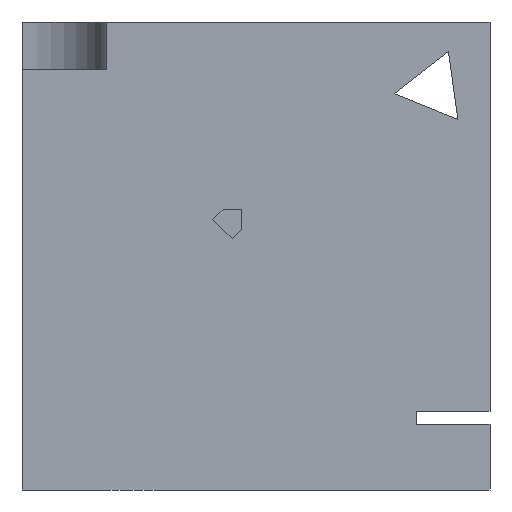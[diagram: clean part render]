
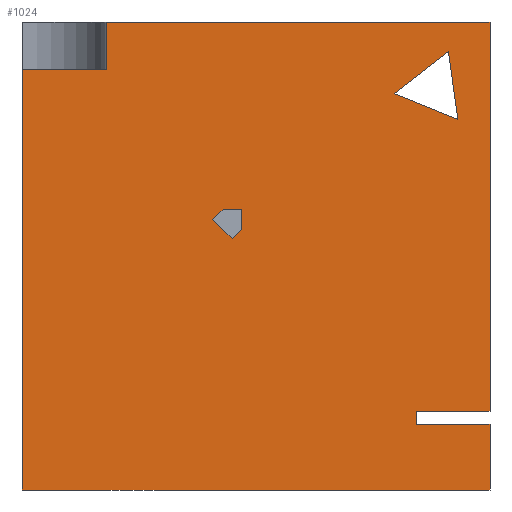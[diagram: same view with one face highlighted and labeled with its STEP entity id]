
A CAD part, left-side view. The second image highlights one B-rep face of the part: STEP entity #1024.
In plain terms, the highlighted planar face has unit normal (-1, 0, 0).
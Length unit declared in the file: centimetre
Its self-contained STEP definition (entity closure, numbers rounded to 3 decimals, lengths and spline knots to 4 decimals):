
#9 = ORIENTED_EDGE ( 'NONE', *, *, #411, .F. ) ;
#17 = LINE ( 'NONE', #721, #23 ) ;
#23 = VECTOR ( 'NONE', #239, 100. ) ;
#32 = CARTESIAN_POINT ( 'NONE',  ( 0., 819.4402, 1000. ) ) ;
#38 = CARTESIAN_POINT ( 'NONE',  ( 0., 156.3605, 140.3757 ) ) ;
#53 = CARTESIAN_POINT ( 'NONE',  ( 0., 551.1977, 536.6098 ) ) ;
#60 = DIRECTION ( 'NONE',  ( 0., 0., -1. ) ) ;
#62 = VECTOR ( 'NONE', #888, 100. ) ;
#69 = VERTEX_POINT ( 'NONE', #531 ) ;
#71 = EDGE_CURVE ( 'NONE', #766, #1152, #434, .T. ) ;
#75 = VERTEX_POINT ( 'NONE', #38 ) ;
#78 = CARTESIAN_POINT ( 'NONE',  ( 0., 531.9568, 555.8506 ) ) ;
#93 = FACE_BOUND ( 'NONE', #1213, .T. ) ;
#119 = VERTEX_POINT ( 'NONE', #124 ) ;
#120 = DIRECTION ( 'NONE',  ( 0., 0., -1. ) ) ;
#122 = ORIENTED_EDGE ( 'NONE', *, *, #181, .F. ) ;
#124 = CARTESIAN_POINT ( 'NONE',  ( 0., 0., 140.3757 ) ) ;
#134 = CARTESIAN_POINT ( 'NONE',  ( 0., 88.9545, 937.2969 ) ) ;
#136 = DIRECTION ( 'NONE',  ( 0., 0.927, 0.375 ) ) ;
#137 = CARTESIAN_POINT ( 'NONE',  ( 0., 0., 1000. ) ) ;
#140 = EDGE_CURVE ( 'NONE', #69, #719, #17, .T. ) ;
#146 = VECTOR ( 'NONE', #637, 100. ) ;
#154 = ORIENTED_EDGE ( 'NONE', *, *, #140, .F. ) ;
#156 = CARTESIAN_POINT ( 'NONE',  ( 0., 204.7481, 847.0051 ) ) ;
#171 = CARTESIAN_POINT ( 'NONE',  ( 0., 592.2954, 577.7075 ) ) ;
#173 = EDGE_CURVE ( 'NONE', #547, #535, #226, .T. ) ;
#181 = EDGE_CURVE ( 'NONE', #198, #766, #509, .T. ) ;
#183 = CARTESIAN_POINT ( 'NONE',  ( 0., 570.4385, 599.5643 ) ) ;
#190 = DIRECTION ( 'NONE',  ( 0., -1., 0. ) ) ;
#198 = VERTEX_POINT ( 'NONE', #32 ) ;
#208 = VERTEX_POINT ( 'NONE', #134 ) ;
#216 = LINE ( 'NONE', #408, #285 ) ;
#226 = LINE ( 'NONE', #439, #1280 ) ;
#230 = LINE ( 'NONE', #1027, #470 ) ;
#239 = DIRECTION ( 'NONE',  ( 0., -1., 0. ) ) ;
#260 = DIRECTION ( 'NONE',  ( 0., -0.707, -0.707 ) ) ;
#285 = VECTOR ( 'NONE', #809, 100. ) ;
#288 = ORIENTED_EDGE ( 'NONE', *, *, #569, .F. ) ;
#326 = EDGE_CURVE ( 'NONE', #410, #995, #768, .T. ) ;
#336 = CARTESIAN_POINT ( 'NONE',  ( 0., 156.3605, 168.6047 ) ) ;
#357 = EDGE_CURVE ( 'NONE', #1016, #410, #942, .T. ) ;
#360 = ORIENTED_EDGE ( 'NONE', *, *, #173, .T. ) ;
#362 = ORIENTED_EDGE ( 'NONE', *, *, #879, .T. ) ;
#367 = CARTESIAN_POINT ( 'NONE',  ( 0., 819.4402, 899.1339 ) ) ;
#374 = VERTEX_POINT ( 'NONE', #53 ) ;
#382 = DIRECTION ( 'NONE',  ( 1., 0., 0. ) ) ;
#396 = LINE ( 'NONE', #1061, #782 ) ;
#397 = EDGE_CURVE ( 'NONE', #1231, #75, #841, .T. ) ;
#398 = CARTESIAN_POINT ( 'NONE',  ( 0., 204.7481, 847.0051 ) ) ;
#404 = ORIENTED_EDGE ( 'NONE', *, *, #794, .T. ) ;
#408 = CARTESIAN_POINT ( 'NONE',  ( 0., 551.1977, 536.6098 ) ) ;
#410 = VERTEX_POINT ( 'NONE', #565 ) ;
#411 = EDGE_CURVE ( 'NONE', #995, #374, #1250, .T. ) ;
#420 = CARTESIAN_POINT ( 'NONE',  ( 0., 0., 1000. ) ) ;
#428 = DIRECTION ( 'NONE',  ( 0., 0., -1. ) ) ;
#431 = CARTESIAN_POINT ( 'NONE',  ( 0., 819.4402, 899.1339 ) ) ;
#434 = LINE ( 'NONE', #420, #678 ) ;
#439 = CARTESIAN_POINT ( 'NONE',  ( 0., 1000., 0. ) ) ;
#460 = ORIENTED_EDGE ( 'NONE', *, *, #357, .F. ) ;
#470 = VECTOR ( 'NONE', #800, 100. ) ;
#499 = LINE ( 'NONE', #792, #1071 ) ;
#502 = ORIENTED_EDGE ( 'NONE', *, *, #1015, .T. ) ;
#505 = CARTESIAN_POINT ( 'NONE',  ( 0., 531.9568, 555.8506 ) ) ;
#509 = LINE ( 'NONE', #1121, #912 ) ;
#519 = DIRECTION ( 'NONE',  ( 0., -1., 0. ) ) ;
#531 = CARTESIAN_POINT ( 'NONE',  ( 0., 1000., 899.1339 ) ) ;
#535 = VERTEX_POINT ( 'NONE', #682 ) ;
#544 = DIRECTION ( 'NONE',  ( 0., 1., 0. ) ) ;
#547 = VERTEX_POINT ( 'NONE', #992 ) ;
#555 = EDGE_CURVE ( 'NONE', #663, #1016, #869, .T. ) ;
#556 = VECTOR ( 'NONE', #136, 100. ) ;
#563 = EDGE_CURVE ( 'NONE', #1152, #1231, #860, .T. ) ;
#565 = CARTESIAN_POINT ( 'NONE',  ( 0., 570.4385, 599.5643 ) ) ;
#569 = EDGE_CURVE ( 'NONE', #75, #119, #396, .T. ) ;
#576 = VECTOR ( 'NONE', #885, 100. ) ;
#613 = ORIENTED_EDGE ( 'NONE', *, *, #646, .F. ) ;
#618 = VECTOR ( 'NONE', #940, 100. ) ;
#637 = DIRECTION ( 'NONE',  ( 0., 0., -1. ) ) ;
#646 = EDGE_CURVE ( 'NONE', #119, #535, #499, .T. ) ;
#648 = DIRECTION ( 'NONE',  ( 0., 0., -1. ) ) ;
#663 = VERTEX_POINT ( 'NONE', #505 ) ;
#665 = CARTESIAN_POINT ( 'NONE',  ( 0., 1000., 1000. ) ) ;
#669 = EDGE_LOOP ( 'NONE', ( #613, #288, #911, #1001, #791, #122, #362, #154, #744, #360 ) ) ;
#671 = LINE ( 'NONE', #979, #576 ) ;
#678 = VECTOR ( 'NONE', #428, 100. ) ;
#682 = CARTESIAN_POINT ( 'NONE',  ( 0., 0., 0. ) ) ;
#701 = CARTESIAN_POINT ( 'NONE',  ( 0., 0., 168.6047 ) ) ;
#710 = EDGE_CURVE ( 'NONE', #374, #663, #216, .T. ) ;
#719 = VERTEX_POINT ( 'NONE', #431 ) ;
#721 = CARTESIAN_POINT ( 'NONE',  ( 0., 1000., 899.1339 ) ) ;
#744 = ORIENTED_EDGE ( 'NONE', *, *, #923, .T. ) ;
#766 = VERTEX_POINT ( 'NONE', #137 ) ;
#768 = LINE ( 'NONE', #183, #618 ) ;
#778 = VERTEX_POINT ( 'NONE', #931 ) ;
#782 = VECTOR ( 'NONE', #190, 100. ) ;
#783 = ORIENTED_EDGE ( 'NONE', *, *, #710, .F. ) ;
#790 = PLANE ( 'NONE',  #799 ) ;
#791 = ORIENTED_EDGE ( 'NONE', *, *, #71, .F. ) ;
#792 = CARTESIAN_POINT ( 'NONE',  ( 0., 0., 1000. ) ) ;
#794 = EDGE_CURVE ( 'NONE', #875, #208, #230, .T. ) ;
#799 = AXIS2_PLACEMENT_3D ( 'NONE', #665, #382, #892 ) ;
#800 = DIRECTION ( 'NONE',  ( 0., -0.789, 0.615 ) ) ;
#809 = DIRECTION ( 'NONE',  ( 0., -0.707, 0.707 ) ) ;
#835 = CARTESIAN_POINT ( 'NONE',  ( 0., 570.4385, 555.8506 ) ) ;
#840 = CARTESIAN_POINT ( 'NONE',  ( 0., 1000., 1000. ) ) ;
#841 = LINE ( 'NONE', #1225, #1075 ) ;
#848 = VECTOR ( 'NONE', #1170, 100. ) ;
#854 = LINE ( 'NONE', #840, #1072 ) ;
#860 = LINE ( 'NONE', #876, #62 ) ;
#869 = LINE ( 'NONE', #78, #848 ) ;
#874 = FACE_OUTER_BOUND ( 'NONE', #669, .T. ) ;
#875 = VERTEX_POINT ( 'NONE', #156 ) ;
#876 = CARTESIAN_POINT ( 'NONE',  ( 0., 0., 168.6047 ) ) ;
#879 = EDGE_CURVE ( 'NONE', #198, #719, #963, .T. ) ;
#880 = CARTESIAN_POINT ( 'NONE',  ( 0., 531.9568, 599.5643 ) ) ;
#885 = DIRECTION ( 'NONE',  ( 0., -0.138, -0.99 ) ) ;
#888 = DIRECTION ( 'NONE',  ( 0., 1., 0. ) ) ;
#892 = DIRECTION ( 'NONE',  ( 0., 0., -1. ) ) ;
#911 = ORIENTED_EDGE ( 'NONE', *, *, #397, .F. ) ;
#912 = VECTOR ( 'NONE', #519, 100. ) ;
#923 = EDGE_CURVE ( 'NONE', #69, #547, #854, .T. ) ;
#925 = LINE ( 'NONE', #398, #556 ) ;
#931 = CARTESIAN_POINT ( 'NONE',  ( 0., 68.6563, 791.8707 ) ) ;
#940 = DIRECTION ( 'NONE',  ( 0., 0.707, -0.707 ) ) ;
#942 = LINE ( 'NONE', #1128, #1014 ) ;
#962 = ORIENTED_EDGE ( 'NONE', *, *, #326, .F. ) ;
#963 = LINE ( 'NONE', #367, #146 ) ;
#979 = CARTESIAN_POINT ( 'NONE',  ( 0., 68.6563, 791.8707 ) ) ;
#992 = CARTESIAN_POINT ( 'NONE',  ( 0., 1000., 0. ) ) ;
#995 = VERTEX_POINT ( 'NONE', #171 ) ;
#1001 = ORIENTED_EDGE ( 'NONE', *, *, #563, .F. ) ;
#1011 = EDGE_LOOP ( 'NONE', ( #404, #502, #1064 ) ) ;
#1014 = VECTOR ( 'NONE', #544, 100. ) ;
#1015 = EDGE_CURVE ( 'NONE', #208, #778, #671, .T. ) ;
#1016 = VERTEX_POINT ( 'NONE', #880 ) ;
#1024 = ADVANCED_FACE ( 'NONE', ( #1260, #93, #874 ), #790, .F. ) ;
#1027 = CARTESIAN_POINT ( 'NONE',  ( 0., 88.9545, 937.2969 ) ) ;
#1061 = CARTESIAN_POINT ( 'NONE',  ( 0., 0., 140.3757 ) ) ;
#1064 = ORIENTED_EDGE ( 'NONE', *, *, #1233, .T. ) ;
#1071 = VECTOR ( 'NONE', #120, 100. ) ;
#1072 = VECTOR ( 'NONE', #648, 100. ) ;
#1075 = VECTOR ( 'NONE', #60, 100. ) ;
#1113 = DIRECTION ( 'NONE',  ( 0., -1., 0. ) ) ;
#1121 = CARTESIAN_POINT ( 'NONE',  ( 0., 1000., 1000. ) ) ;
#1128 = CARTESIAN_POINT ( 'NONE',  ( 0., 531.9568, 599.5643 ) ) ;
#1134 = VECTOR ( 'NONE', #260, 100. ) ;
#1152 = VERTEX_POINT ( 'NONE', #701 ) ;
#1170 = DIRECTION ( 'NONE',  ( 0., 0., 1. ) ) ;
#1213 = EDGE_LOOP ( 'NONE', ( #962, #460, #1252, #783, #9 ) ) ;
#1225 = CARTESIAN_POINT ( 'NONE',  ( 0., 156.3605, 140.3757 ) ) ;
#1231 = VERTEX_POINT ( 'NONE', #336 ) ;
#1233 = EDGE_CURVE ( 'NONE', #778, #875, #925, .T. ) ;
#1250 = LINE ( 'NONE', #835, #1134 ) ;
#1252 = ORIENTED_EDGE ( 'NONE', *, *, #555, .F. ) ;
#1260 = FACE_BOUND ( 'NONE', #1011, .T. ) ;
#1280 = VECTOR ( 'NONE', #1113, 100. ) ;
